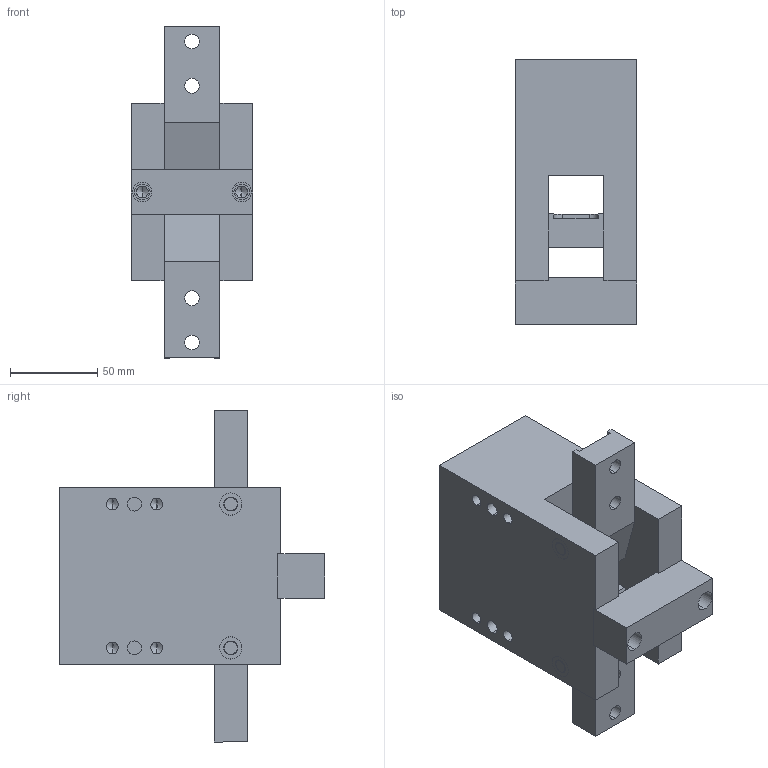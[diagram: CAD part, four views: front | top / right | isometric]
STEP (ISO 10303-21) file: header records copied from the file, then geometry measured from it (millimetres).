
FILE_DESCRIPTION (( 'STEP AP203' ), '1' );
FILE_NAME ('AGA-50 OPEN in IN.STEP', '2014-11-03T20:46:08', ( 'setup' ), ( '' ), 'SwSTEP 2.0', 'SolidWorks 2013', '' );
FILE_SCHEMA (( 'CONFIG_CONTROL_DESIGN' ));
Length unit declared in the file: inch
Products named in the file (6): AGA-50 BODY; AGA-50 PIN; AGA-50 JAW; AGA-50 BUSHING; AGA-50 BLOCK; AGA-50 OPEN in IN
Assembly tree (10 placements, depth 2):
  AGA-50 OPEN in IN
    AGA-50 BODY
    AGA-50 PIN  x2
    AGA-50 JAW  x2
    AGA-50 BUSHING  x4
    AGA-50 BLOCK
Bounding box: 69.85 x 152.4 x 190.5 mm (x, y, z)
Volume: 814076.3 mm3; surface area: 116475.5 mm2
Topology: 10 solids, 10 shells, 199 faces, 470 edges, 294 vertices
Faces by surface type: cylinder 91, plane 76, cone 32
Entity records: 5162 total; most frequent: DIRECTION 828, CARTESIAN_POINT 738, ORIENTED_EDGE 692, EDGE_CURVE 346, AXIS2_PLACEMENT_3D 316, VERTEX_POINT 226, LINE 196, EDGE_LOOP 196
